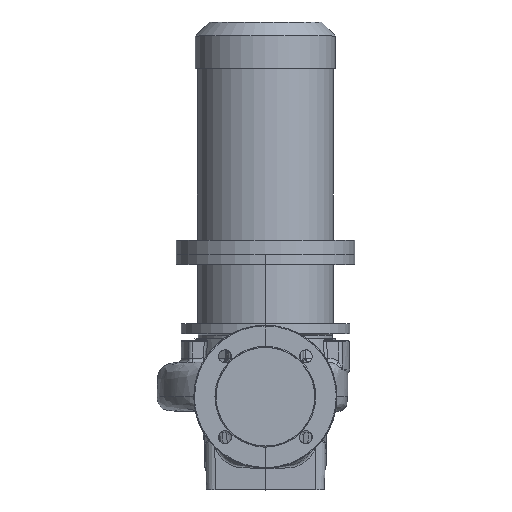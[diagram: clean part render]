
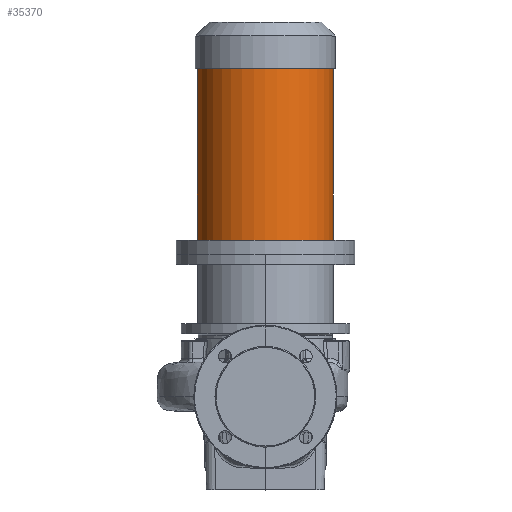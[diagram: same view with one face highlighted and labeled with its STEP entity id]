
A CAD part, top view. The second image highlights one B-rep face of the part: STEP entity #35370.
In plain terms, the highlighted cylindrical face has radius 95 mm (diameter 190 mm), a partial arc.
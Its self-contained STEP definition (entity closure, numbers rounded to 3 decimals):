
#1056 = DIRECTION ( 'NONE',  ( -1., 0., 0. ) ) ;
#2097 = CARTESIAN_POINT ( 'NONE',  ( -95., 459.3, 0. ) ) ;
#2221 = CARTESIAN_POINT ( 'NONE',  ( -95., 199.3, 0. ) ) ;
#3529 = ORIENTED_EDGE ( 'NONE', *, *, #44169, .T. ) ;
#5738 = DIRECTION ( 'NONE',  ( 0., -1., 0. ) ) ;
#6465 = CYLINDRICAL_SURFACE ( 'NONE', #39523, 95. ) ;
#9886 = EDGE_CURVE ( 'NONE', #32359, #52613, #19473, .T. ) ;
#15126 = CARTESIAN_POINT ( 'NONE',  ( 0., 459.3, 0. ) ) ;
#15313 = DIRECTION ( 'NONE',  ( -1., 0., 0. ) ) ;
#15543 = CIRCLE ( 'NONE', #61186, 95. ) ;
#16599 = CARTESIAN_POINT ( 'NONE',  ( -95., 219.3, 0. ) ) ;
#19473 = LINE ( 'NONE', #23183, #32369 ) ;
#19714 = CARTESIAN_POINT ( 'NONE',  ( 0., 199.3, 0. ) ) ;
#19940 = DIRECTION ( 'NONE',  ( 0., -1., 0. ) ) ;
#20037 = FACE_OUTER_BOUND ( 'NONE', #23579, .T. ) ;
#22951 = VERTEX_POINT ( 'NONE', #2097 ) ;
#23183 = CARTESIAN_POINT ( 'NONE',  ( 95., 199.3, 0. ) ) ;
#23579 = EDGE_LOOP ( 'NONE', ( #25206, #3529, #31418, #38865 ) ) ;
#24593 = AXIS2_PLACEMENT_3D ( 'NONE', #15126, #19940, #53757 ) ;
#25206 = ORIENTED_EDGE ( 'NONE', *, *, #9886, .F. ) ;
#29028 = DIRECTION ( 'NONE',  ( 0., -1., 0. ) ) ;
#31418 = ORIENTED_EDGE ( 'NONE', *, *, #38633, .T. ) ;
#32359 = VERTEX_POINT ( 'NONE', #39118 ) ;
#32369 = VECTOR ( 'NONE', #32885, 1000. ) ;
#32885 = DIRECTION ( 'NONE',  ( 0., -1., 0. ) ) ;
#35370 = ADVANCED_FACE ( 'NONE', ( #20037 ), #6465, .T. ) ;
#36503 = DIRECTION ( 'NONE',  ( 0., -1., 0. ) ) ;
#38633 = EDGE_CURVE ( 'NONE', #22951, #51532, #50161, .T. ) ;
#38865 = ORIENTED_EDGE ( 'NONE', *, *, #40755, .F. ) ;
#39118 = CARTESIAN_POINT ( 'NONE',  ( 95., 459.3, 0. ) ) ;
#39523 = AXIS2_PLACEMENT_3D ( 'NONE', #19714, #29028, #15313 ) ;
#40755 = EDGE_CURVE ( 'NONE', #52613, #51532, #15543, .T. ) ;
#44169 = EDGE_CURVE ( 'NONE', #32359, #22951, #54021, .T. ) ;
#47122 = VECTOR ( 'NONE', #36503, 1000. ) ;
#47864 = CARTESIAN_POINT ( 'NONE',  ( 95., 219.3, 0. ) ) ;
#49042 = CARTESIAN_POINT ( 'NONE',  ( 0., 219.3, 0. ) ) ;
#50161 = LINE ( 'NONE', #2221, #47122 ) ;
#51532 = VERTEX_POINT ( 'NONE', #16599 ) ;
#52613 = VERTEX_POINT ( 'NONE', #47864 ) ;
#53757 = DIRECTION ( 'NONE',  ( -1., 0., 0. ) ) ;
#54021 = CIRCLE ( 'NONE', #24593, 95. ) ;
#61186 = AXIS2_PLACEMENT_3D ( 'NONE', #49042, #5738, #1056 ) ;
